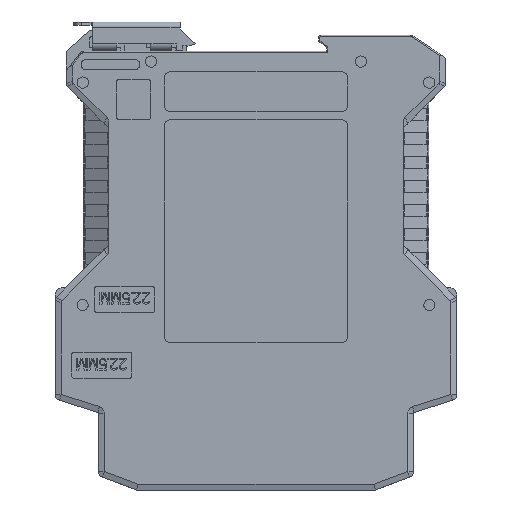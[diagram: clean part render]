
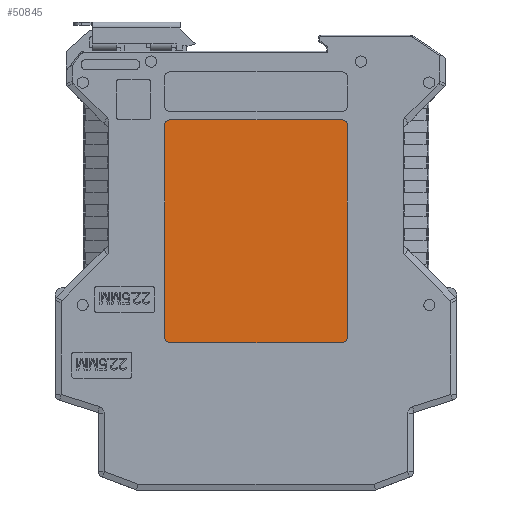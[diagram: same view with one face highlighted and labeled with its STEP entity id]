
A CAD part, front view. The second image highlights one B-rep face of the part: STEP entity #50845.
In plain terms, the highlighted planar face has unit normal (0, -1, 0).
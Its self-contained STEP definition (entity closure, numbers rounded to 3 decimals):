
#4916=CARTESIAN_POINT('',(-21.979,-10.95,-18.1));
#4917=DIRECTION('',(0.,1.,0.));
#4918=DIRECTION('',(0.,0.,-1.));
#4919=AXIS2_PLACEMENT_3D('',#4916,#4917,#4918);
#4921=CARTESIAN_POINT('',(-21.979,-10.95,34.7));
#4922=DIRECTION('',(0.,1.,0.));
#4923=DIRECTION('',(-1.,0.,0.));
#4924=AXIS2_PLACEMENT_3D('',#4921,#4922,#4923);
#4926=CARTESIAN_POINT('',(20.821,-10.95,34.7));
#4927=DIRECTION('',(0.,1.,0.));
#4928=DIRECTION('',(0.,0.,1.));
#4929=AXIS2_PLACEMENT_3D('',#4926,#4927,#4928);
#4931=CARTESIAN_POINT('',(20.821,-10.95,-18.1));
#4932=DIRECTION('',(0.,1.,0.));
#4933=DIRECTION('',(1.,0.,0.));
#4934=AXIS2_PLACEMENT_3D('',#4931,#4932,#4933);
#4936=DIRECTION('',(0.,0.,-1.));
#4937=VECTOR('',#4936,52.8);
#4938=CARTESIAN_POINT('',(-23.479,-10.95,34.7));
#4939=LINE('',#4938,#4937);
#4948=DIRECTION('',(-1.,0.,0.));
#4949=VECTOR('',#4948,42.8);
#4950=CARTESIAN_POINT('',(20.821,-10.95,36.2));
#4951=LINE('',#4950,#4949);
#4960=DIRECTION('',(0.,0.,1.));
#4961=VECTOR('',#4960,52.8);
#4962=CARTESIAN_POINT('',(22.321,-10.95,-18.1));
#4963=LINE('',#4962,#4961);
#4972=DIRECTION('',(1.,0.,0.));
#4973=VECTOR('',#4972,42.8);
#4974=CARTESIAN_POINT('',(-21.979,-10.95,-19.6));
#4975=LINE('',#4974,#4973);
#42097=CARTESIAN_POINT('',(-21.979,-10.95,-19.6));
#42098=CARTESIAN_POINT('',(-23.479,-10.95,-18.1));
#42099=VERTEX_POINT('',#42097);
#42100=VERTEX_POINT('',#42098);
#42101=CARTESIAN_POINT('',(-23.479,-10.95,34.7));
#42102=VERTEX_POINT('',#42101);
#42103=CARTESIAN_POINT('',(-21.979,-10.95,36.2));
#42104=VERTEX_POINT('',#42103);
#42105=CARTESIAN_POINT('',(20.821,-10.95,36.2));
#42106=VERTEX_POINT('',#42105);
#42107=CARTESIAN_POINT('',(22.321,-10.95,34.7));
#42108=VERTEX_POINT('',#42107);
#42109=CARTESIAN_POINT('',(22.321,-10.95,-18.1));
#42110=VERTEX_POINT('',#42109);
#42111=CARTESIAN_POINT('',(20.821,-10.95,-19.6));
#42112=VERTEX_POINT('',#42111);
#50823=CARTESIAN_POINT('',(0.,-10.95,0.));
#50824=DIRECTION('',(0.,-1.,0.));
#50825=DIRECTION('',(0.,0.,-1.));
#50826=AXIS2_PLACEMENT_3D('',#50823,#50824,#50825);
#50827=PLANE('',#50826);
#50828=ORIENTED_EDGE('',*,*,#50813,.T.);
#50830=ORIENTED_EDGE('',*,*,#50829,.F.);
#50832=ORIENTED_EDGE('',*,*,#50831,.T.);
#50834=ORIENTED_EDGE('',*,*,#50833,.F.);
#50836=ORIENTED_EDGE('',*,*,#50835,.T.);
#50838=ORIENTED_EDGE('',*,*,#50837,.F.);
#50840=ORIENTED_EDGE('',*,*,#50839,.T.);
#50842=ORIENTED_EDGE('',*,*,#50841,.F.);
#50843=EDGE_LOOP('',(#50828,#50830,#50832,#50834,#50836,#50838,#50840,#50842));
#50844=FACE_OUTER_BOUND('',#50843,.F.);
#50845=ADVANCED_FACE('',(#50844),#50827,.T.);
#4920=CIRCLE('',#4919,1.5);
#4925=CIRCLE('',#4924,1.5);
#4930=CIRCLE('',#4929,1.5);
#4935=CIRCLE('',#4934,1.5);
#50813=EDGE_CURVE('',#42099,#42100,#4920,.T.);
#50829=EDGE_CURVE('',#42102,#42100,#4939,.T.);
#50831=EDGE_CURVE('',#42102,#42104,#4925,.T.);
#50833=EDGE_CURVE('',#42106,#42104,#4951,.T.);
#50835=EDGE_CURVE('',#42106,#42108,#4930,.T.);
#50837=EDGE_CURVE('',#42110,#42108,#4963,.T.);
#50839=EDGE_CURVE('',#42110,#42112,#4935,.T.);
#50841=EDGE_CURVE('',#42099,#42112,#4975,.T.);
